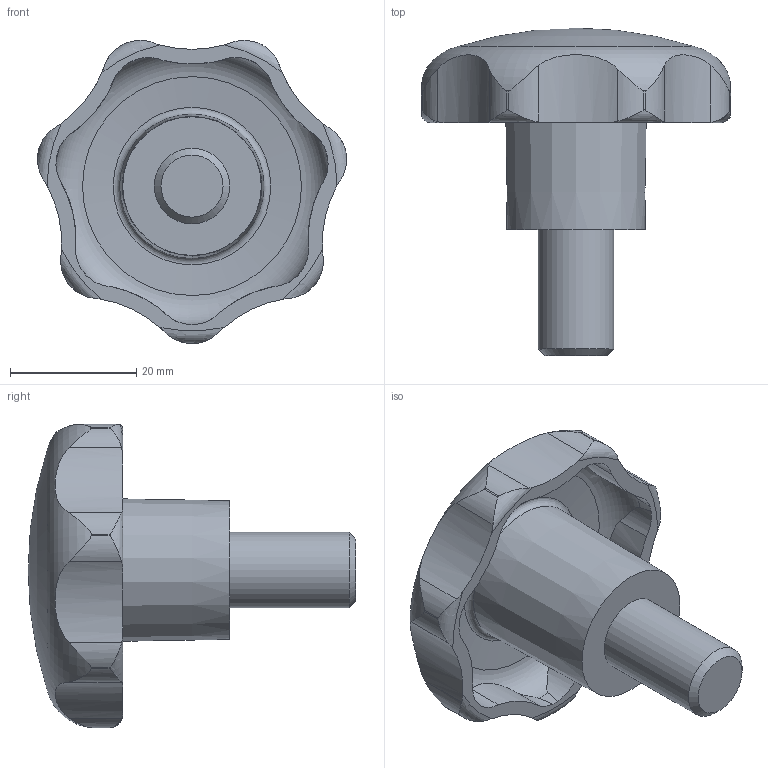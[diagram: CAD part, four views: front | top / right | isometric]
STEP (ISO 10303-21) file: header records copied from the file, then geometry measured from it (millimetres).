
FILE_DESCRIPTION( ( 'STEP AP203' ), '1' );
FILE_NAME( 'C:/Temp/Ganter_Step_05_03_2020/data/2_2/gn_6336_4/gn_6336_4_st/Star knob GN 6336.4-ST-50-M12-20.stp', '2020-03-05T12:07:40', ( 'License CC BY-ND 4.0' ), ( 'CADENAS' ), ' ', 'PARTsolutions', ' ' );
FILE_SCHEMA( ( 'CONFIG_CONTROL_DESIGN' ) );
Length unit declared in the file: millimetre
Products named in the file (1): _Star knob GN 6336.4-ST-50-M12-20
Bounding box: 49.04 x 52 x 48.12 mm (x, y, z)
Volume: 23401.9 mm3; surface area: 8196.1 mm2
Topology: 1 solids, 1 shells, 74 faces, 209 edges, 138 vertices
Faces by surface type: cylinder 50, torus 10, cone 10, plane 3, sphere 1
Full cylindrical faces by diameter (mm): 12 x1
Entity records: 3234 total; most frequent: CARTESIAN_POINT 1425, ORIENTED_EDGE 394, DIRECTION 334, EDGE_CURVE 197, AXIS2_PLACEMENT_3D 146, VERTEX_POINT 135, B_SPLINE_CURVE_WITH_KNOTS 84, EDGE_LOOP 83
